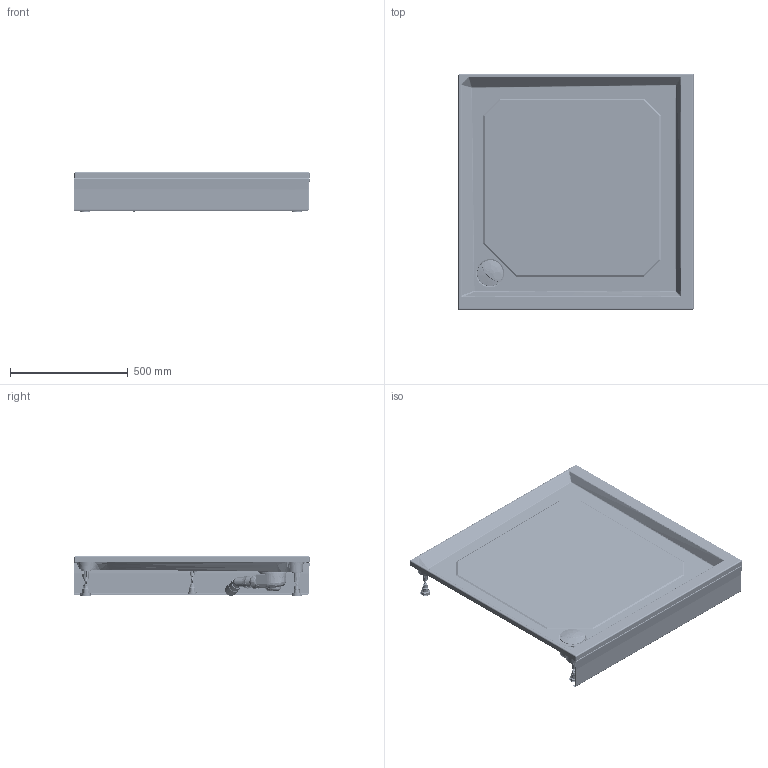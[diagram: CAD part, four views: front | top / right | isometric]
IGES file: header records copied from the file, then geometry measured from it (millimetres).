
Start section: SolidWorks IGES file using analytic representation for surfaces
Global section: file name: C:\Users\PC Lite\Desktop\2D_3D-PACKAGE\PAA-Showertrays-CLASSIC-KV-100\PAA-Showertay-CLASSIC-KV100-KDPCLKV100-XX-3D.IGS; native system: SolidWorks 2018; preprocessor: SolidWorks 2018; author: PC Lite; date: 221122.102314; units: millimetre
Bounding box: 1000.04 x 1000.32 x 170.15 mm (x, y, z)
Surface area: 3228223.3 mm2 (no closed solid volume)
Topology: 0 solids, 0 shells, 3680 faces, 55399 edges, 55356 vertices
Faces by surface type: bspline 1987, revolution 1693
